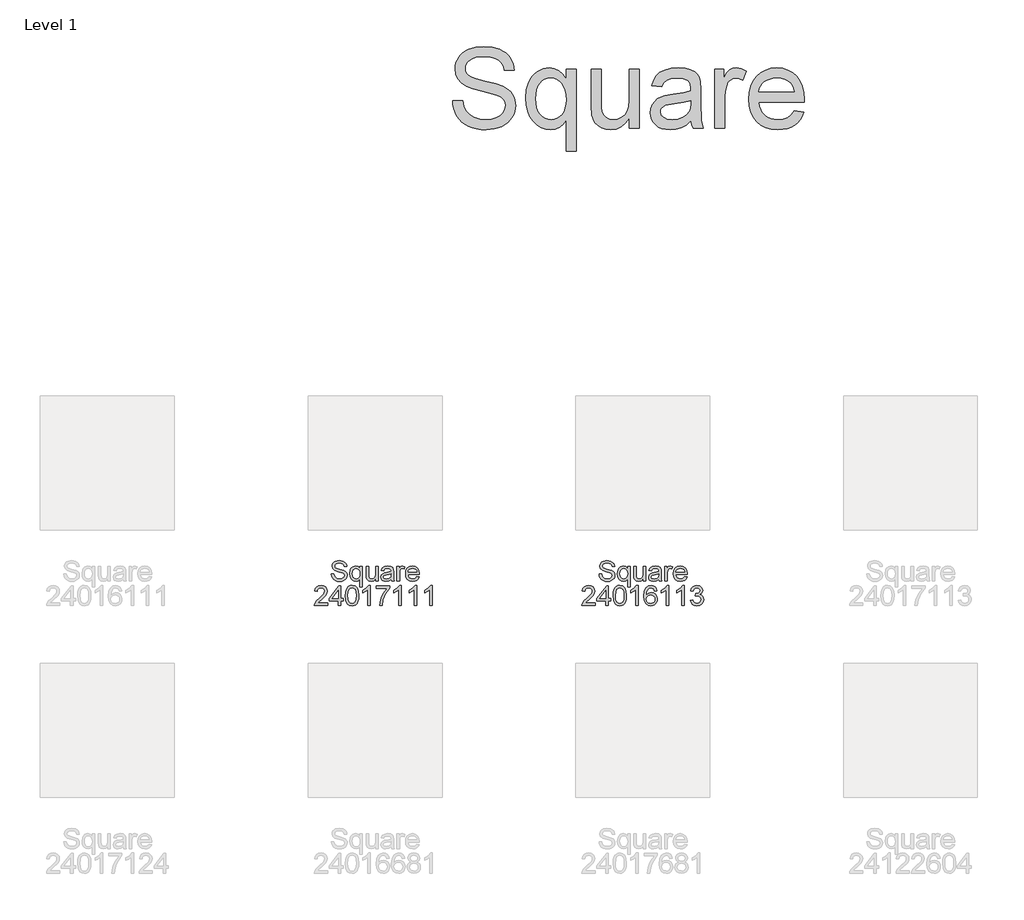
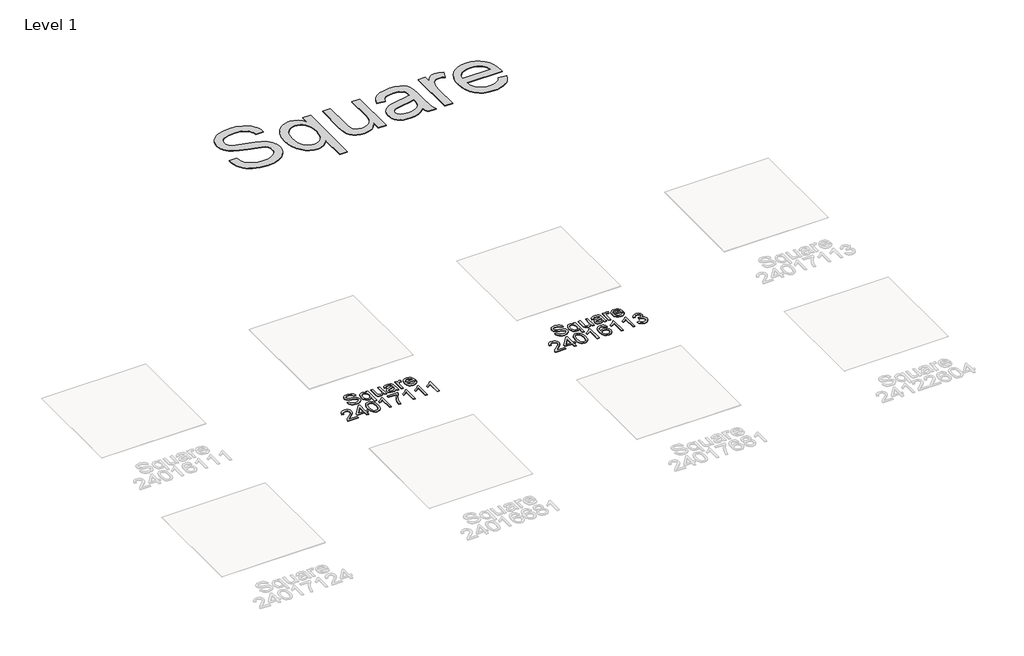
# One storey, part 5 of 6: 3 proxies.
"""IFC4 building model written with IfcOpenShell, lengths in millimetres."""

from ifc_helpers import new_model, si_unit, origin, origin_with_axes, place, context, project, spatial, polyline, outline, extrude, element, save

model = new_model("IFC4")

# Units and contexts
model_context = context("Model", 3, world=origin())
ifc_project = project(units=[si_unit("LENGTHUNIT", "METRE", prefix="MILLI")], contexts=[model_context])

# Site, building, storey
site = spatial("IfcSite", under=ifc_project)
building = spatial("IfcBuilding", under=site)
storey = spatial("IfcBuildingStorey", under=building, Name="Level 1", Elevation=0.0)

# Proxies
placement = place(None, origin())
element("IfcBuildingElementProxy", 1, Name="150mm Arial", ObjectType="150mm Arial", at=placement, inside=storey, context=model_context, shape_type="SweptSolid", body=[
    extrude(outline(polyline([(-2760.0314438, 688.8522427), (-2741.1958857, 688.8522427), (-2735.1258328, 669.9982904), (-2720.3001884, 658.0789138), (-2697.7122339, 653.5355712), (-2678.0305471, 656.9752678), (-2665.3202242, 666.4298351), (-2661.1447635, 679.0665816), (-2664.2717605, 690.8204114), (-2677.0740539, 699.3736678), (-2704.4996567, 706.5657608), (-2734.0221868, 715.8547811), (-2750.0434477, 729.8710852), (-2755.3225543, 748.5962787), (-2753.6900779, 759.62814), (-2748.7926489, 769.9150403), (-2740.7590258, 778.6338436), (-2729.7179674, 784.9614139), (-2701.795724, 790.0933678), (-2671.9972824, 784.7222906), (-2660.5745464, 778.0912177), (-2652.1316547, 768.940153), (-2646.7881687, 757.8393138), (-2644.6636501, 745.3589172), (-2663.4992083, 745.3589172), (-2666.9572991, 756.5977121), (-2674.1677862, 764.7095101), (-2685.4341723, 769.6207347), (-2701.05996, 771.2578096), (-2717.0536297, 769.6391288), (-2728.0257103, 764.7830865), (-2734.3716747, 757.6369787), (-2736.4869961, 749.1481017), (-2734.987877, 741.9100234), (-2730.4905196, 736.0882909), (-2699.7355848, 725.5668658), (-2666.4054761, 716.1122985), (-2655.6679203, 709.2788905), (-2648.1769232, 700.8451957), (-2643.7761348, 690.9031848), (-2642.3092054, 679.5448282), (-2643.996864, 667.9335527), (-2649.05984, 657.012056), (-2657.2911996, 647.612671), (-2668.4840093, 640.5677308), (-2681.9438918, 636.1669425), (-2696.9764699, 634.700013), (-2715.4303504, 636.2819056), (-2730.6192783, 641.0275833), (-2742.7179974, 648.9554403), (-2751.9012517, 660.0838707), (-2757.7965607, 673.6403222), (-2760.0314438, 688.8522427)])), origin_with_axes(), (0.0, 0.0, 1.0), 5.0),
    extrude(outline(polyline([(-2548.1314146, 594.6744519), (-2548.1314146, 652.1376196), (-2560.0875795, 639.6664199), (-2576.42154, 634.700013), (-2594.3281962, 638.6225548), (-2609.5677078, 650.3901801), (-2619.9971624, 668.9912135), (-2623.4736472, 693.4139794), (-2617.9554173, 723.2492092), (-2611.1955856, 734.8558862), (-2601.9525505, 743.2619898), (-2590.9620759, 748.3663525), (-2578.9599258, 750.0678067), (-2561.4487428, 744.7887001), (-2548.1314146, 728.9513802), (-2548.1314146, 747.7133619), (-2529.2958565, 747.7133619), (-2529.2958565, 594.6744519), (-2548.1314146, 594.6744519)]), holes=[polyline([(-2604.6380891, 692.3839098), (-2602.5181691, 675.3877617), (-2596.1584091, 663.2476558), (-2586.837199, 655.9635923), (-2575.8329289, 653.5355712), (-2565.2885112, 655.8440307), (-2556.316789, 662.7694092), (-2550.1777582, 674.4128744), (-2548.1314146, 690.8755937), (-2550.2881228, 708.4741486), (-2556.7582474, 721.0970996), (-2566.1346398, 728.6984613), (-2577.0101512, 731.2322485), (-2587.6833276, 728.8732052), (-2596.5998675, 721.7960754), (-2602.6285337, 709.7249474), (-2604.6380891, 692.3839098)])]), origin_with_axes(), (0.0, 0.0, 1.0), 5.0),
    extrude(outline(polyline([(-2430.4091762, 637.0544578), (-2430.4091762, 656.0739569), (-2445.1612442, 640.043499), (-2464.4014725, 634.700013), (-2482.1149906, 638.4524094), (-2494.3286728, 647.8701884), (-2499.9388732, 661.7393396), (-2501.0425192, 679.2505226), (-2501.0425192, 747.7133619), (-2482.2069611, 747.7133619), (-2482.2069611, 688.1164787), (-2481.0665269, 668.9130386), (-2473.6169165, 657.6374554), (-2459.5822184, 653.5355712), (-2443.8552631, 657.7294259), (-2433.4625967, 669.1521618), (-2430.4091762, 690.1398297), (-2430.4091762, 747.7133619), (-2411.573618, 747.7133619), (-2411.573618, 637.0544578), (-2430.4091762, 637.0544578)])), origin_with_axes(), (0.0, 0.0, 1.0), 5.0),
    extrude(outline(polyline([(-2315.0413825, 651.1811264), (-2333.3067235, 638.4156212), (-2353.485051, 634.700013), (-2369.2258018, 636.9348961), (-2380.8370773, 643.6395455), (-2387.9969806, 653.8206797), (-2390.3836151, 666.4850174), (-2386.7783715, 681.3842382), (-2377.3054102, 692.1999688), (-2364.1168406, 698.3803864), (-2347.8196682, 701.2130777), (-2315.1517471, 707.6878008), (-2315.0413825, 711.8816556), (-2316.3381665, 720.2877592), (-2320.2285186, 725.787595), (-2328.9289278, 729.8710852), (-2341.0506395, 731.2322485), (-2360.1069269, 727.6086109), (-2369.1936122, 714.7511352), (-2388.0291703, 717.1055799), (-2379.8805841, 735.4996797), (-2363.4730471, 746.2786221), (-2338.6226184, 750.0678067), (-2315.7955406, 746.7200805), (-2302.9012766, 738.3139769), (-2297.1255293, 725.5300776), (-2296.2058243, 709.0489642), (-2296.2058243, 685.6148811), (-2295.2493311, 652.8917777), (-2291.4969348, 637.0544578), (-2310.3324929, 637.0544578), (-2315.0413825, 651.1811264)]), holes=[polyline([(-2315.0413825, 688.8522427), (-2345.4284353, 683.0764954), (-2361.6336372, 680.0230748), (-2368.972883, 675.0566679), (-2371.5480569, 667.8093926), (-2365.9378565, 657.6190613), (-2349.4751372, 653.5355712), (-2330.4188499, 658.0421256), (-2318.1315912, 668.9498268), (-2315.1517471, 683.5179538), (-2315.0413825, 688.8522427)])]), origin_with_axes(), (0.0, 0.0, 1.0), 5.0),
    extrude(outline(polyline([(-2270.3069319, 637.0544578), (-2270.3069319, 747.7133619), (-2253.8258185, 747.7133619), (-2253.8258185, 731.3426131), (-2242.127171, 746.4257749), (-2230.3549472, 750.0678067), (-2211.4458126, 744.2552712), (-2217.7365947, 727.3694876), (-2230.9803466, 731.2322485), (-2241.6305303, 727.5166404), (-2248.4179531, 717.2159445), (-2251.4713737, 695.2166012), (-2251.4713737, 637.0544578), (-2270.3069319, 637.0544578)])), origin_with_axes(), (0.0, 0.0, 1.0), 5.0),
    extrude(outline(polyline([(-2122.1976406, 670.0166845), (-2103.7299644, 667.6622398), (-2110.38403, 653.7471033), (-2121.0020241, 643.3452399), (-2135.3448234, 636.8613197), (-2153.1733046, 634.700013), (-2175.2738155, 638.4294167), (-2192.2791607, 649.6176279), (-2203.1224825, 667.5380796), (-2206.7369231, 691.4642049), (-2203.0856943, 716.195072), (-2192.1320079, 734.6903393), (-2175.3565889, 746.2234398), (-2154.2401624, 750.0678067), (-2133.7813249, 746.2326369), (-2117.4335688, 734.7271275), (-2106.7144071, 716.2686484), (-2103.1413532, 691.5745695), (-2103.2517178, 686.4977979), (-2187.9013649, 686.4977979), (-2184.6410108, 672.3987205), (-2177.0672402, 662.0336452), (-2166.1365464, 655.6600897), (-2152.8054226, 653.5355712), (-2134.3377464, 657.4719085), (-2122.1976406, 670.0166845)]), holes=[polyline([(-2187.9013649, 705.3333561), (-2121.9769114, 705.3333561), (-2124.5244942, 715.284564), (-2129.5184923, 722.4030807), (-2140.4997699, 729.0249566), (-2154.3137388, 731.2322485), (-2167.0102661, 729.4710135), (-2177.5086986, 724.1873083), (-2184.8065577, 715.9513502), (-2187.9013649, 705.3333561)])]), origin_with_axes(), (0.0, 0.0, 1.0), 5.0),
    extrude(outline(polyline([(-2789.4620034, 472.9277892), (-2789.4620034, 454.092231), (-2888.3486838, 454.092231), (-2886.3253328, 467.0784654), (-2874.8842027, 487.0728519), (-2851.3029668, 508.9066483), (-2818.7821985, 540.2869825), (-2812.6845544, 551.1027131), (-2810.6520064, 561.6241382), (-2812.5695913, 571.0557128), (-2818.322346, 578.8961979), (-2827.1653094, 584.179903), (-2838.3535206, 585.9411381), (-2850.1027518, 584.2212897), (-2859.2308238, 579.0617448), (-2865.1215343, 570.8671733), (-2867.1586808, 560.0422456), (-2885.994239, 562.3966904), (-2881.4279037, 580.6160462), (-2871.5548707, 593.9241774), (-2856.8901746, 602.0635665), (-2837.9488504, 604.7766962), (-2818.8695704, 601.7600639), (-2804.2324656, 592.7101668), (-2794.9204526, 579.1905035), (-2791.8164482, 562.7645724), (-2795.1641744, 544.9039015), (-2806.2926047, 526.4362254), (-2833.2767491, 500.6293034), (-2854.9449986, 482.5111151), (-2863.4430727, 472.9277892), (-2789.4620034, 472.9277892)])), origin_with_axes(), (0.0, 0.0, 1.0), 5.0),
    extrude(outline(polyline([(-2709.4108813, 454.092231), (-2709.4108813, 489.4089025), (-2777.6897796, 489.4089025), (-2777.6897796, 508.2444607), (-2704.7019918, 602.4222515), (-2690.5753231, 602.4222515), (-2690.5753231, 508.2444607), (-2671.739765, 508.2444607), (-2671.739765, 489.4089025), (-2690.5753231, 489.4089025), (-2690.5753231, 454.092231), (-2709.4108813, 454.092231)]), holes=[polyline([(-2709.4108813, 508.2444607), (-2709.4108813, 566.4433923), (-2754.5132139, 508.2444607), (-2709.4108813, 508.2444607)])]), origin_with_axes(), (0.0, 0.0, 1.0), 5.0),
    extrude(outline(polyline([(-2655.2586516, 528.220453), (-2653.8744956, 552.3397163), (-2649.7220276, 571.5753462), (-2642.8426343, 586.2216481), (-2633.2777024, 596.5729277), (-2620.9582541, 602.7257541), (-2605.8153115, 604.7766962), (-2583.8159681, 599.9206539), (-2568.6224417, 585.922744), (-2559.7932739, 563.6290951), (-2556.3719713, 528.220453), (-2557.7423317, 504.2391455), (-2561.853413, 485.0495009), (-2568.6914196, 470.3894034), (-2578.2425559, 459.996737), (-2590.5895954, 453.8025239), (-2605.8153115, 451.7377862), (-2625.3866336, 455.3246357), (-2640.2490662, 466.085184), (-2651.5062553, 491.5702093), (-2655.2586516, 528.220453)]), holes=[polyline([(-2636.4230935, 528.2572412), (-2634.2158015, 498.628945), (-2627.5939256, 481.4810455), (-2617.7346881, 473.3002697), (-2605.8153115, 470.5733444), (-2593.8959348, 473.3094667), (-2584.0366973, 481.5178337), (-2577.4148214, 498.6749303), (-2575.2075295, 528.2572412), (-2577.341245, 557.2187513), (-2583.7423917, 574.500008), (-2593.5832351, 583.0808556), (-2606.0360407, 585.9411381), (-2617.8266586, 583.4211464), (-2627.29962, 575.8611714), (-2634.1422251, 557.5038598), (-2636.4230935, 528.2572412)])]), origin_with_axes(), (0.0, 0.0, 1.0), 5.0),
    extrude(outline(polyline([(-2469.2575148, 454.092231), (-2488.093073, 454.092231), (-2488.093073, 571.5201639), (-2505.9353498, 558.8098409), (-2525.7641893, 549.3000914), (-2525.7641893, 567.1055799), (-2498.1546456, 584.7271275), (-2481.3976207, 604.7766962), (-2469.2575148, 604.7766962), (-2469.2575148, 454.092231)])), origin_with_axes(), (0.0, 0.0, 1.0), 5.0),
    extrude(outline(polyline([(-2424.5230642, 583.5866933), (-2424.5230642, 602.4222515), (-2325.6363839, 602.4222515), (-2325.6363839, 587.1919369), (-2353.6873861, 546.6697351), (-2365.9976373, 521.2077025), (-2375.1533005, 495.0374971), (-2382.1430584, 454.092231), (-2400.9786165, 454.092231), (-2393.4922179, 496.5826014), (-2384.7780132, 521.0421556), (-2372.9460085, 544.6095959), (-2344.4719421, 583.5866933), (-2424.5230642, 583.5866933)])), origin_with_axes(), (0.0, 0.0, 1.0), 5.0),
    extrude(outline(polyline([(-2238.5219275, 454.092231), (-2257.3574856, 454.092231), (-2257.3574856, 571.5201639), (-2275.1997624, 558.8098409), (-2295.0286019, 549.3000914), (-2295.0286019, 567.1055799), (-2267.4190582, 584.7271275), (-2250.6620333, 604.7766962), (-2238.5219275, 604.7766962), (-2238.5219275, 454.092231)])), origin_with_axes(), (0.0, 0.0, 1.0), 5.0),
    extrude(outline(polyline([(-2123.1541338, 454.092231), (-2141.9896919, 454.092231), (-2141.9896919, 571.5201639), (-2159.8319687, 558.8098409), (-2179.6608082, 549.3000914), (-2179.6608082, 567.1055799), (-2152.0512645, 584.7271275), (-2135.2942396, 604.7766962), (-2123.1541338, 604.7766962), (-2123.1541338, 454.092231)])), origin_with_axes(), (0.0, 0.0, 1.0), 5.0),
    extrude(outline(polyline([(-2007.7863401, 454.092231), (-2026.6218983, 454.092231), (-2026.6218983, 571.5201639), (-2044.464175, 558.8098409), (-2064.2930146, 549.3000914), (-2064.2930146, 567.1055799), (-2036.6834708, 584.7271275), (-2019.9264459, 604.7766962), (-2007.7863401, 604.7766962), (-2007.7863401, 454.092231)])), origin_with_axes(), (0.0, 0.0, 1.0), 5.0),
])
element("IfcBuildingElementProxy", 2, Name="150mm Arial", ObjectType="150mm Arial", at=placement, inside=storey, context=model_context, shape_type="SweptSolid", body=[
    extrude(outline(polyline([(-760.0314438, 688.8522427), (-741.1958857, 688.8522427), (-735.1258328, 669.9982904), (-720.3001884, 658.0789138), (-697.7122339, 653.5355712), (-678.0305471, 656.9752678), (-665.3202242, 666.4298351), (-661.1447635, 679.0665816), (-664.2717605, 690.8204114), (-677.0740539, 699.3736678), (-704.4996567, 706.5657608), (-734.0221868, 715.8547811), (-750.0434477, 729.8710852), (-755.3225543, 748.5962787), (-753.6900779, 759.62814), (-748.7926489, 769.9150403), (-740.7590258, 778.6338436), (-729.7179674, 784.9614139), (-701.795724, 790.0933678), (-671.9972824, 784.7222906), (-660.5745464, 778.0912177), (-652.1316547, 768.940153), (-646.7881687, 757.8393138), (-644.6636501, 745.3589172), (-663.4992083, 745.3589172), (-666.9572991, 756.5977121), (-674.1677862, 764.7095101), (-685.4341723, 769.6207347), (-701.05996, 771.2578096), (-717.0536297, 769.6391288), (-728.0257103, 764.7830865), (-734.3716747, 757.6369787), (-736.4869961, 749.1481017), (-734.987877, 741.9100234), (-730.4905196, 736.0882909), (-699.7355848, 725.5668658), (-666.4054761, 716.1122985), (-655.6679203, 709.2788905), (-648.1769232, 700.8451957), (-643.7761348, 690.9031848), (-642.3092054, 679.5448282), (-643.996864, 667.9335527), (-649.05984, 657.012056), (-657.2911996, 647.612671), (-668.4840093, 640.5677308), (-681.9438918, 636.1669425), (-696.9764699, 634.700013), (-715.4303504, 636.2819056), (-730.6192783, 641.0275833), (-742.7179974, 648.9554403), (-751.9012517, 660.0838707), (-757.7965607, 673.6403222), (-760.0314438, 688.8522427)])), origin_with_axes(), (0.0, 0.0, 1.0), 5.0),
    extrude(outline(polyline([(-548.1314146, 594.6744519), (-548.1314146, 652.1376196), (-560.0875795, 639.6664199), (-576.42154, 634.700013), (-594.3281962, 638.6225548), (-609.5677078, 650.3901801), (-619.9971624, 668.9912135), (-623.4736472, 693.4139794), (-617.9554173, 723.2492092), (-611.1955856, 734.8558862), (-601.9525505, 743.2619898), (-590.9620759, 748.3663525), (-578.9599258, 750.0678067), (-561.4487428, 744.7887001), (-548.1314146, 728.9513802), (-548.1314146, 747.7133619), (-529.2958565, 747.7133619), (-529.2958565, 594.6744519), (-548.1314146, 594.6744519)]), holes=[polyline([(-604.6380891, 692.3839098), (-602.5181691, 675.3877617), (-596.1584091, 663.2476558), (-586.837199, 655.9635923), (-575.8329289, 653.5355712), (-565.2885112, 655.8440307), (-556.316789, 662.7694092), (-550.1777582, 674.4128744), (-548.1314146, 690.8755937), (-550.2881228, 708.4741486), (-556.7582474, 721.0970996), (-566.1346398, 728.6984613), (-577.0101512, 731.2322485), (-587.6833276, 728.8732052), (-596.5998675, 721.7960754), (-602.6285337, 709.7249474), (-604.6380891, 692.3839098)])]), origin_with_axes(), (0.0, 0.0, 1.0), 5.0),
    extrude(outline(polyline([(-430.4091762, 637.0544578), (-430.4091762, 656.0739569), (-445.1612442, 640.043499), (-464.4014725, 634.700013), (-482.1149906, 638.4524094), (-494.3286728, 647.8701884), (-499.9388732, 661.7393396), (-501.0425192, 679.2505226), (-501.0425192, 747.7133619), (-482.2069611, 747.7133619), (-482.2069611, 688.1164787), (-481.0665269, 668.9130386), (-473.6169165, 657.6374554), (-459.5822184, 653.5355712), (-443.8552631, 657.7294259), (-433.4625967, 669.1521618), (-430.4091762, 690.1398297), (-430.4091762, 747.7133619), (-411.573618, 747.7133619), (-411.573618, 637.0544578), (-430.4091762, 637.0544578)])), origin_with_axes(), (0.0, 0.0, 1.0), 5.0),
    extrude(outline(polyline([(-315.0413825, 651.1811264), (-333.3067235, 638.4156212), (-353.485051, 634.700013), (-369.2258018, 636.9348961), (-380.8370773, 643.6395455), (-387.9969806, 653.8206797), (-390.3836151, 666.4850174), (-386.7783715, 681.3842382), (-377.3054102, 692.1999688), (-364.1168406, 698.3803864), (-347.8196682, 701.2130777), (-315.1517471, 707.6878008), (-315.0413825, 711.8816556), (-316.3381665, 720.2877592), (-320.2285186, 725.787595), (-328.9289278, 729.8710852), (-341.0506395, 731.2322485), (-360.1069269, 727.6086109), (-369.1936122, 714.7511352), (-388.0291703, 717.1055799), (-379.8805841, 735.4996797), (-363.4730471, 746.2786221), (-338.6226184, 750.0678067), (-315.7955406, 746.7200805), (-302.9012766, 738.3139769), (-297.1255293, 725.5300776), (-296.2058243, 709.0489642), (-296.2058243, 685.6148811), (-295.2493311, 652.8917777), (-291.4969348, 637.0544578), (-310.3324929, 637.0544578), (-315.0413825, 651.1811264)]), holes=[polyline([(-315.0413825, 688.8522427), (-345.4284353, 683.0764954), (-361.6336372, 680.0230748), (-368.972883, 675.0566679), (-371.5480569, 667.8093926), (-365.9378565, 657.6190613), (-349.4751372, 653.5355712), (-330.4188499, 658.0421256), (-318.1315912, 668.9498268), (-315.1517471, 683.5179538), (-315.0413825, 688.8522427)])]), origin_with_axes(), (0.0, 0.0, 1.0), 5.0),
    extrude(outline(polyline([(-270.3069319, 637.0544578), (-270.3069319, 747.7133619), (-253.8258185, 747.7133619), (-253.8258185, 731.3426131), (-242.127171, 746.4257749), (-230.3549472, 750.0678067), (-211.4458126, 744.2552712), (-217.7365947, 727.3694876), (-230.9803466, 731.2322485), (-241.6305303, 727.5166404), (-248.4179531, 717.2159445), (-251.4713737, 695.2166012), (-251.4713737, 637.0544578), (-270.3069319, 637.0544578)])), origin_with_axes(), (0.0, 0.0, 1.0), 5.0),
    extrude(outline(polyline([(-122.1976406, 670.0166845), (-103.7299644, 667.6622398), (-110.38403, 653.7471033), (-121.0020241, 643.3452399), (-135.3448234, 636.8613197), (-153.1733046, 634.700013), (-175.2738155, 638.4294167), (-192.2791607, 649.6176279), (-203.1224825, 667.5380796), (-206.7369231, 691.4642049), (-203.0856943, 716.195072), (-192.1320079, 734.6903393), (-175.3565889, 746.2234398), (-154.2401624, 750.0678067), (-133.7813249, 746.2326369), (-117.4335688, 734.7271275), (-106.7144071, 716.2686484), (-103.1413532, 691.5745695), (-103.2517178, 686.4977979), (-187.9013649, 686.4977979), (-184.6410108, 672.3987205), (-177.0672402, 662.0336452), (-166.1365464, 655.6600897), (-152.8054226, 653.5355712), (-134.3377464, 657.4719085), (-122.1976406, 670.0166845)]), holes=[polyline([(-187.9013649, 705.3333561), (-121.9769114, 705.3333561), (-124.5244942, 715.284564), (-129.5184923, 722.4030807), (-140.4997699, 729.0249566), (-154.3137388, 731.2322485), (-167.0102661, 729.4710135), (-177.5086986, 724.1873083), (-184.8065577, 715.9513502), (-187.9013649, 705.3333561)])]), origin_with_axes(), (0.0, 0.0, 1.0), 5.0),
    extrude(outline(polyline([(-789.4620034, 472.9277892), (-789.4620034, 454.092231), (-888.3486838, 454.092231), (-886.3253328, 467.0784654), (-874.8842027, 487.0728519), (-851.3029668, 508.9066483), (-818.7821985, 540.2869825), (-812.6845544, 551.1027131), (-810.6520064, 561.6241382), (-812.5695913, 571.0557128), (-818.322346, 578.8961979), (-827.1653094, 584.179903), (-838.3535206, 585.9411381), (-850.1027518, 584.2212897), (-859.2308238, 579.0617448), (-865.1215343, 570.8671733), (-867.1586808, 560.0422456), (-885.994239, 562.3966904), (-881.4279037, 580.6160462), (-871.5548707, 593.9241774), (-856.8901746, 602.0635665), (-837.9488504, 604.7766962), (-818.8695704, 601.7600639), (-804.2324656, 592.7101668), (-794.9204526, 579.1905035), (-791.8164482, 562.7645724), (-795.1641744, 544.9039015), (-806.2926047, 526.4362254), (-833.2767491, 500.6293034), (-854.9449986, 482.5111151), (-863.4430727, 472.9277892), (-789.4620034, 472.9277892)])), origin_with_axes(), (0.0, 0.0, 1.0), 5.0),
    extrude(outline(polyline([(-709.4108813, 454.092231), (-709.4108813, 489.4089025), (-777.6897796, 489.4089025), (-777.6897796, 508.2444607), (-704.7019918, 602.4222515), (-690.5753231, 602.4222515), (-690.5753231, 508.2444607), (-671.739765, 508.2444607), (-671.739765, 489.4089025), (-690.5753231, 489.4089025), (-690.5753231, 454.092231), (-709.4108813, 454.092231)]), holes=[polyline([(-709.4108813, 508.2444607), (-709.4108813, 566.4433923), (-754.5132139, 508.2444607), (-709.4108813, 508.2444607)])]), origin_with_axes(), (0.0, 0.0, 1.0), 5.0),
    extrude(outline(polyline([(-655.2586516, 528.220453), (-653.8744956, 552.3397163), (-649.7220276, 571.5753462), (-642.8426343, 586.2216481), (-633.2777024, 596.5729277), (-620.9582541, 602.7257541), (-605.8153115, 604.7766962), (-583.8159681, 599.9206539), (-568.6224417, 585.922744), (-559.7932739, 563.6290951), (-556.3719713, 528.220453), (-557.7423317, 504.2391455), (-561.853413, 485.0495009), (-568.6914196, 470.3894034), (-578.2425559, 459.996737), (-590.5895954, 453.8025239), (-605.8153115, 451.7377862), (-625.3866336, 455.3246357), (-640.2490662, 466.085184), (-651.5062553, 491.5702093), (-655.2586516, 528.220453)]), holes=[polyline([(-636.4230935, 528.2572412), (-634.2158015, 498.628945), (-627.5939256, 481.4810455), (-617.7346881, 473.3002697), (-605.8153115, 470.5733444), (-593.8959348, 473.3094667), (-584.0366973, 481.5178337), (-577.4148214, 498.6749303), (-575.2075295, 528.2572412), (-577.341245, 557.2187513), (-583.7423917, 574.500008), (-593.5832351, 583.0808556), (-606.0360407, 585.9411381), (-617.8266586, 583.4211464), (-627.29962, 575.8611714), (-634.1422251, 557.5038598), (-636.4230935, 528.2572412)])]), origin_with_axes(), (0.0, 0.0, 1.0), 5.0),
    extrude(outline(polyline([(-469.2575148, 454.092231), (-488.093073, 454.092231), (-488.093073, 571.5201639), (-505.9353498, 558.8098409), (-525.7641893, 549.3000914), (-525.7641893, 567.1055799), (-498.1546456, 584.7271275), (-481.3976207, 604.7766962), (-469.2575148, 604.7766962), (-469.2575148, 454.092231)])), origin_with_axes(), (0.0, 0.0, 1.0), 5.0),
    extrude(outline(polyline([(-327.9908287, 564.7511352), (-346.8263869, 562.3966904), (-353.9632976, 578.1052516), (-362.5073569, 583.9821664), (-372.8356439, 585.9411381), (-389.8317921, 581.3794013), (-402.6892678, 564.2544945), (-406.5934155, 550.2243949), (-408.0419509, 530.6852624), (-391.4320788, 545.7132419), (-370.8490811, 550.6244665), (-353.4482628, 547.2675433), (-338.8433476, 537.1967737), (-328.9381248, 521.8101093), (-325.6363839, 502.5055016), (-327.1906854, 489.0180279), (-331.8535896, 476.5146386), (-339.2388207, 465.9104401), (-348.9601024, 458.1205388), (-360.5759764, 453.3334744), (-373.6449843, 451.7377862), (-395.0143297, 455.9684292), (-412.0334705, 468.660358), (-423.1664994, 491.0643715), (-426.877509, 524.4312685), (-422.7572307, 561.9460349), (-410.3963956, 587.5966071), (-393.5198091, 600.4816739), (-371.6584215, 604.7766962), (-355.1313229, 602.1187488), (-341.8967681, 594.1449066), (-332.6261418, 581.4805689), (-327.9908287, 564.7511352)]), holes=[polyline([(-408.0419509, 502.7998072), (-403.6825492, 486.4842407), (-392.0942664, 474.6384404), (-375.1165123, 470.5733444), (-362.6866994, 472.6794688), (-352.9148339, 478.9978421), (-346.582665, 488.9306559), (-344.4719421, 501.8801022), (-346.5550739, 514.3099151), (-352.8044693, 523.787475), (-362.7418817, 529.78855), (-375.8890645, 531.7889084), (-388.3004833, 529.78855), (-398.6793541, 523.787475), (-405.7013017, 514.5398413), (-408.0419509, 502.7998072)])]), origin_with_axes(), (0.0, 0.0, 1.0), 5.0),
    extrude(outline(polyline([(-238.5219275, 454.092231), (-257.3574856, 454.092231), (-257.3574856, 571.5201639), (-275.1997624, 558.8098409), (-295.0286019, 549.3000914), (-295.0286019, 567.1055799), (-267.4190582, 584.7271275), (-250.6620333, 604.7766962), (-238.5219275, 604.7766962), (-238.5219275, 454.092231)])), origin_with_axes(), (0.0, 0.0, 1.0), 5.0),
    extrude(outline(polyline([(-123.1541338, 454.092231), (-141.9896919, 454.092231), (-141.9896919, 571.5201639), (-159.8319687, 558.8098409), (-179.6608082, 549.3000914), (-179.6608082, 567.1055799), (-152.0512645, 584.7271275), (-135.2942396, 604.7766962), (-123.1541338, 604.7766962), (-123.1541338, 454.092231)])), origin_with_axes(), (0.0, 0.0, 1.0), 5.0),
    extrude(outline(polyline([(-78.4196832, 494.1177921), (-59.584125, 496.4722368), (-55.3672776, 484.6356337), (-49.1914587, 476.6433973), (-40.7531654, 472.0908576), (-29.7488952, 470.5733444), (-16.8362372, 472.6610747), (-6.8666351, 478.9242657), (-0.4930795, 488.2684684), (1.631439, 499.5992338), (-0.4746854, 510.3551836), (-6.7930587, 519.0785855), (-16.3579906, 524.8589313), (-28.2037908, 526.7857132), (-41.4107545, 524.7255741), (-39.3138271, 543.5611322), (-36.2971947, 543.340403), (-14.9232508, 548.7482684), (-7.8047342, 555.6092676), (-5.4318953, 565.3765345), (-7.1517437, 573.5113252), (-12.3112886, 580.1102085), (-20.1839633, 584.4834057), (-30.0432008, 585.9411381), (-39.9208324, 584.4696101), (-47.9958422, 580.0550262), (-53.8911511, 572.6973862), (-57.2296802, 562.3966904), (-76.0652384, 564.7511352), (-70.5194173, 581.6645099), (-60.6509828, 594.2920594), (-47.1497136, 602.155537), (-30.7053884, 604.7766962), (-7.9886752, 599.6079542), (7.903827, 585.4812856), (13.4036628, 566.4801805), (8.1797385, 549.1161504), (-7.2713053, 536.6449507), (4.5193126, 531.8808789), (13.25651, 523.7690809), (18.6643754, 512.7510151), (20.4669971, 499.26814), (16.8617536, 480.9108285), (6.0460229, 465.5701493), (-10.2787406, 455.195877), (-30.4110828, 451.7377862), (-48.6212416, 454.6900392), (-63.446886, 463.5467983), (-73.7567789, 477.0940528), (-78.4196832, 494.1177921)])), origin_with_axes(), (0.0, 0.0, 1.0), 5.0),
])
element("IfcBuildingElementProxy", 3, Name="600mm Arial", ObjectType="600mm Arial", at=placement, inside=storey, context=model_context, shape_type="SweptSolid", body=[
    extrude(outline(polyline([(-1855.1166528, 4227.7727565), (-1779.7744202, 4227.7727565), (-1771.1291933, 4185.9629678), (-1755.4942085, 4152.3569475), (-1731.1036322, 4125.6855029), (-1696.1916309, 4104.6794409), (-1653.5173194, 4091.049413), (-1605.8398128, 4086.5060704), (-1563.8644772, 4089.945767), (-1527.1130659, 4100.264857), (-1497.3330184, 4116.5988176), (-1476.2717741, 4138.0831261), (-1463.7453922, 4162.7496139), (-1459.5699316, 4188.6301122), (-1462.6969285, 4213.848423), (-1472.0779194, 4235.6454312), (-1491.1342067, 4254.2418661), (-1523.2870931, 4269.8584568), (-1632.9895041, 4298.6268288), (-1705.0024046, 4317.664722), (-1751.0796245, 4335.7829103), (-1788.5851939, 4361.1299798), (-1815.1646681, 4391.8481264), (-1831.001988, 4427.2751625), (-1836.2810946, 4466.7489006), (-1834.6486183, 4489.1851038), (-1829.7511892, 4510.8763459), (-1821.5888074, 4531.822627), (-1810.161473, 4552.0239471), (-1795.5979445, 4570.6571701), (-1778.0269807, 4586.8991602), (-1757.4485816, 4600.7499173), (-1733.8627472, 4612.2094415), (-1680.8509517, 4627.605303), (-1622.1737734, 4632.7372568), (-1558.6037647, 4627.3661797), (-1502.980007, 4611.2529483), (-1478.644613, 4599.2507982), (-1457.2890632, 4584.7286564), (-1438.9133575, 4567.686523), (-1423.517496, 4548.1243979), (-1411.2210403, 4526.6124983), (-1402.1435521, 4503.7210411), (-1396.2850313, 4479.4500265), (-1393.645478, 4453.7994544), (-1468.9877106, 4453.7994544), (-1474.027694, 4477.8405427), (-1482.8200737, 4498.7546342), (-1495.3648497, 4516.5417286), (-1511.6620221, 4531.2018261), (-1532.0150935, 4542.6613503), (-1556.7275665, 4550.8467247), (-1585.7994412, 4555.7579493), (-1619.2307175, 4557.3950242), (-1653.7288516, 4555.7763434), (-1683.2053964, 4550.9203011), (-1707.6603521, 4542.8268972), (-1727.0937185, 4531.4961317), (-1741.9009688, 4517.8753009), (-1752.4775761, 4502.9117007), (-1758.8235405, 4486.6053313), (-1760.938862, 4468.9561926), (-1759.4397429, 4453.7718632), (-1754.9423855, 4440.0038795), (-1747.4467898, 4427.6522416), (-1736.9529559, 4416.7169492), (-1720.4350543, 4406.3610711), (-1694.4257973, 4395.8948283), (-1613.9332167, 4374.631249), (-1530.8654622, 4354.4345275), (-1480.6127817, 4336.8129799), (-1437.6625587, 4309.4793477), (-1421.0572852, 4293.4121015), (-1407.6985702, 4275.7445687), (-1397.430064, 4256.5687197), (-1390.0954168, 4235.976525), (-1384.2276989, 4190.5430986), (-1385.9153576, 4166.9756583), (-1390.9783336, 4144.0979967), (-1399.4166268, 4121.9101139), (-1411.2302374, 4100.4120098), (-1426.2122316, 4080.4360175), (-1444.155676, 4062.8144699), (-1465.0605703, 4047.5473671), (-1488.9269148, 4034.6347091), (-1515.060332, 4024.3662029), (-1542.7664448, 4017.0315556), (-1602.8967569, 4011.1638378), (-1641.4369944, 4012.7457303), (-1676.7122792, 4017.4914081), (-1708.7226113, 4025.400871), (-1737.4679907, 4036.474119), (-1763.1231614, 4050.7295463), (-1785.8628672, 4068.185547), (-1805.6871082, 4088.842121), (-1822.5958844, 4112.6992684), (-1836.2167153, 4138.984437), (-1846.1771203, 4166.9250745), (-1852.4770995, 4196.521181), (-1855.1166528, 4227.7727565)])), origin_with_axes(), (0.0, 0.0, 1.0), 5.0),
    extrude(outline(polyline([(-1007.5165359, 3851.0615935), (-1007.5165359, 4080.9142641), (-1028.007563, 4053.433479), (-1055.3411953, 4031.0294655), (-1087.0526232, 4016.1302447), (-1120.6770376, 4011.1638378), (-1157.8239221, 4015.0863795), (-1192.3036621, 4026.8540049), (-1224.1162576, 4046.4667137), (-1253.2617087, 4073.9245061), (-1277.5971026, 4108.2157066), (-1294.9795269, 4148.3286397), (-1305.4089815, 4194.2633053), (-1308.8854663, 4246.0197035), (-1303.3672364, 4309.1114657), (-1286.8125466, 4365.3606227), (-1274.534485, 4390.1742633), (-1259.77322, 4411.7873305), (-1242.5287515, 4430.1998244), (-1222.8010795, 4445.4117449), (-1201.325968, 4457.3219245), (-1178.839181, 4465.8291956), (-1155.3407186, 4470.9335583), (-1130.8305807, 4472.6350125), (-1093.7112874, 4467.3559059), (-1060.7858488, 4451.518586), (-1032.054265, 4425.1230528), (-1007.5165359, 4388.1693064), (-1007.5165359, 4463.2172334), (-932.1743033, 4463.2172334), (-932.1743033, 3851.0615935), (-1007.5165359, 3851.0615935)]), holes=[polyline([(-1233.5432337, 4241.8994251), (-1231.4233137, 4205.4791076), (-1225.0635537, 4173.9148324), (-1214.4639537, 4147.2065996), (-1199.6245138, 4125.3544091), (-1181.8236237, 4108.3582609), (-1162.3396736, 4096.218155), (-1141.1726633, 4088.9340915), (-1118.3225928, 4086.5060704), (-1096.4474097, 4088.8145299), (-1076.1449221, 4095.7399085), (-1057.41513, 4107.2822061), (-1040.2580335, 4123.4414227), (-1025.9336283, 4144.3187259), (-1015.7019103, 4170.0152833), (-1009.5628795, 4200.5310948), (-1007.5165359, 4235.8661604), (-1009.6732441, 4273.5510723), (-1016.1433687, 4306.2603802), (-1026.9269097, 4333.9940841), (-1042.023867, 4356.752184), (-1060.0270922, 4374.4886947), (-1079.5294364, 4387.1576309), (-1100.5308998, 4394.7589927), (-1123.0314824, 4397.2927799), (-1145.2561534, 4394.9337366), (-1165.7241879, 4387.8566067), (-1184.4355859, 4376.0613903), (-1201.3903473, 4359.5480872), (-1215.4572351, 4338.0407861), (-1225.5050121, 4311.2635753), (-1231.5336783, 4279.216455), (-1233.5432337, 4241.8994251)])]), origin_with_axes(), (0.0, 0.0, 1.0), 5.0),
    extrude(outline(polyline([(-536.6275821, 4020.5816168), (-536.6275821, 4096.6596134), (-563.8876379, 4059.2552116), (-595.6358541, 4032.5377817), (-631.8722306, 4016.5073237), (-672.5967675, 4011.1638378), (-709.2929965, 4014.9162341), (-743.4508397, 4026.1734232), (-772.1088472, 4043.0959949), (-792.3055687, 4063.8445395), (-805.8988084, 4089.0444561), (-814.7463704, 4119.3211443), (-819.1609544, 4189.3658762), (-819.1609544, 4463.2172334), (-743.8187217, 4463.2172334), (-743.8187217, 4224.8297006), (-742.6782876, 4177.152194), (-739.256985, 4148.01594), (-728.2757074, 4122.392959), (-709.4585434, 4102.9136074), (-684.0562916, 4090.6079546), (-653.3197509, 4086.5060704), (-620.8173767, 4090.6999251), (-590.4119298, 4103.2814894), (-565.3407718, 4123.0919348), (-548.8412643, 4148.9724332), (-539.6810026, 4184.4178634), (-536.6275821, 4232.9231045), (-536.6275821, 4463.2172334), (-461.2853494, 4463.2172334), (-461.2853494, 4020.5816168), (-536.6275821, 4020.5816168)])), origin_with_axes(), (0.0, 0.0, 1.0), 5.0),
    extrude(outline(polyline([(-75.1564073, 4077.0882913), (-111.1536605, 4046.2229919), (-148.2177716, 4026.0262704), (-187.1948689, 4014.8794459), (-228.9310813, 4011.1638378), (-262.4773207, 4013.3987209), (-291.8940848, 4020.1033702), (-317.1813734, 4031.2777859), (-338.3391867, 4046.9219677), (-355.0456278, 4066.0426344), (-366.9788, 4087.6465046), (-374.1387033, 4111.7335782), (-376.5253378, 4138.3038553), (-372.9200942, 4169.5370367), (-362.1043635, 4197.9007385), (-345.4209151, 4222.1809502), (-324.212518, 4241.1636611), (-299.2885129, 4255.511059), (-271.4582399, 4265.8853312), (-206.2695504, 4277.2160967), (-129.2350606, 4289.1354733), (-75.5978657, 4303.1149891), (-75.1564073, 4319.8904081), (-80.3435434, 4353.5148225), (-86.8274636, 4365.967628), (-95.9049518, 4375.5141658), (-111.5951189, 4385.0423095), (-130.7065886, 4391.8481264), (-179.1934355, 4397.2927799), (-224.075039, 4393.6691422), (-255.4185849, 4382.7982293), (-276.7925289, 4362.6934783), (-291.7653261, 4331.3683264), (-367.1075587, 4340.7861054), (-354.0293538, 4381.9888889), (-334.5132139, 4414.3625045), (-306.7381233, 4439.1209628), (-268.883066, 4457.4782743), (-222.5851169, 4468.845828), (-169.4813509, 4472.6350125), (-118.5480886, 4469.2872864), (-78.1730397, 4459.2441079), (-47.7308046, 4444.142552), (-26.5959839, 4425.6196935), (-12.5796799, 4402.7190393), (-3.4929946, 4374.4840962), (0.1858253, 4308.5596427), (0.1858253, 4214.8233103), (4.0117981, 4083.9308964), (9.6771808, 4051.5756749), (19.0213835, 4020.5816168), (-56.3208492, 4020.5816168), (-68.3873786, 4046.7748149), (-75.1564073, 4077.0882913)]), holes=[polyline([(-75.1564073, 4227.7727565), (-125.7769698, 4215.2279805), (-196.7046185, 4204.6697672), (-261.5254261, 4192.456085), (-278.3928155, 4184.1051637), (-290.8824093, 4172.5904572), (-298.6079312, 4158.7948824), (-301.1831051, 4143.601356), (-295.5729047, 4121.1973425), (-278.7423034, 4102.840031), (-251.0591833, 4090.5895605), (-212.8914263, 4086.5060704), (-172.4244068, 4091.0126248), (-136.6662769, 4104.5322881), (-107.6771757, 4124.4530982), (-87.5172423, 4148.1630928), (-78.5777099, 4172.5904572), (-75.5978657, 4206.4356008), (-75.1564073, 4227.7727565)])]), origin_with_axes(), (0.0, 0.0, 1.0), 5.0),
    extrude(outline(polyline([(103.7813951, 4020.5816168), (103.7813951, 4463.2172334), (169.7058487, 4463.2172334), (169.7058487, 4397.7342383), (194.0596368, 4435.6996602), (216.5004385, 4458.0668855), (239.0148166, 4468.9929808), (263.5893339, 4472.6350125), (301.1132974, 4466.822477), (339.2258721, 4449.3848704), (314.0627436, 4381.8417361), (287.5752399, 4393.430019), (261.0877363, 4397.2927799), (238.5917523, 4393.5771718), (218.4870012, 4382.4303473), (202.2450112, 4364.6984351), (191.33731, 4341.2275638), (182.1770483, 4299.1418636), (179.1236278, 4253.2301906), (179.1236278, 4020.5816168), (103.7813951, 4020.5816168)])), origin_with_axes(), (0.0, 0.0, 1.0), 5.0),
    extrude(outline(polyline([(696.2185602, 4152.4305239), (770.0892648, 4143.0127448), (758.7630979, 4113.4258354), (743.4730025, 4087.352199), (724.2189785, 4064.7918356), (701.0010261, 4045.7447453), (674.0582685, 4030.6155983), (643.629829, 4019.8090647), (609.7157075, 4013.3251445), (572.3159042, 4011.1638378), (525.5672997, 4014.8932415), (483.9138608, 4026.0814527), (447.3555875, 4044.7284713), (415.8924799, 4070.8342974), (390.5913956, 4103.672364), (372.5191926, 4142.5161041), (361.6758708, 4187.3655179), (358.0614302, 4238.2206052), (361.712659, 4290.8001393), (372.6663454, 4337.1440737), (390.9224894, 4377.2524082), (416.481091, 4411.1251429), (447.8614252, 4438.0357109), (483.582767, 4457.2575451), (523.6451162, 4468.7906457), (568.0484731, 4472.6350125), (611.0216886, 4468.7998427), (649.8838229, 4457.2943333), (684.6348759, 4438.1184843), (715.2748475, 4411.2722957), (740.2862247, 4377.4731374), (758.1514941, 4337.4383793), (768.8706557, 4291.1680213), (772.4437096, 4238.6620636), (772.0022512, 4218.3549774), (433.4036628, 4218.3549774), (437.767663, 4188.2898214), (446.4450796, 4161.9586676), (459.4359125, 4139.361516), (476.7401619, 4120.4983667), (497.4013344, 4105.6267371), (520.462937, 4095.0041445), (545.9249696, 4088.6305889), (573.7874322, 4086.5060704), (613.8865697, 4090.4424077), (647.6581368, 4102.2514198), (675.1021337, 4122.6688705), (696.2185602, 4152.4305239)]), holes=[polyline([(433.4036628, 4293.6972101), (697.101477, 4293.6972101), (686.9111457, 4333.5020419), (678.1463572, 4349.1554208), (666.9351534, 4361.9761084), (646.3889439, 4377.4271522), (623.0100431, 4388.463612), (596.798451, 4395.0854879), (567.7541675, 4397.2927799), (541.2620653, 4395.5315449), (516.968058, 4390.2478397), (494.8721457, 4381.4416644), (474.9743283, 4369.1130191), (458.2770842, 4353.8321207), (445.782892, 4336.1691864), (437.4917515, 4316.1242162), (433.4036628, 4293.6972101)])]), origin_with_axes(), (0.0, 0.0, 1.0), 5.0),
])

save(model, "model.ifc")
